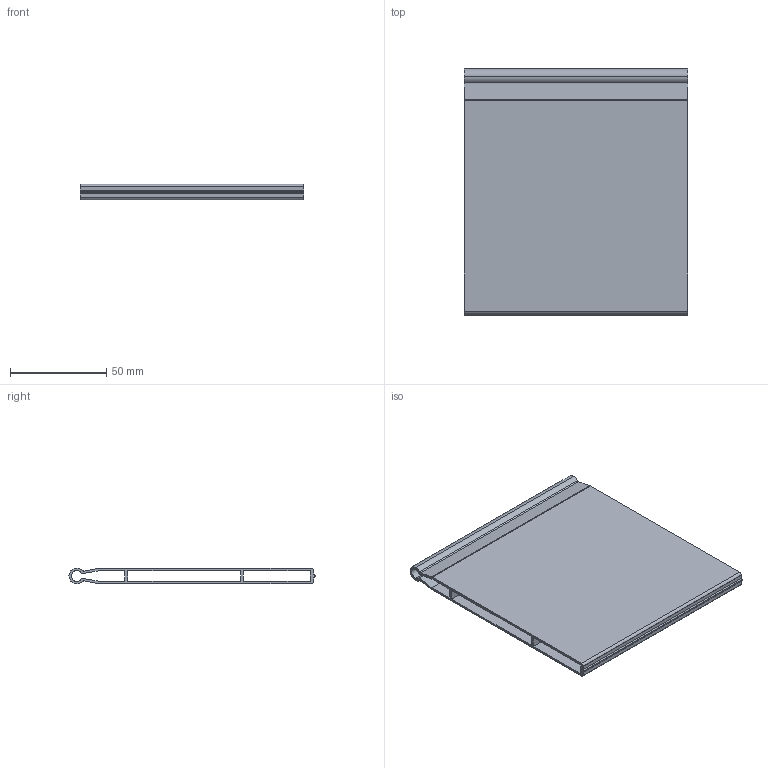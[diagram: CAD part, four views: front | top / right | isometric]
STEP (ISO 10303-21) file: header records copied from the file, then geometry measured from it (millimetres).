
FILE_DESCRIPTION (( 'STEP AP214' ), '1' );
FILE_NAME ('_Magic Optima Unterteilungsprofil DWD XP KAB 250.step', '2010-08-17T12:26:33', ( 'grass' ), ( '' ), 'SwSTEP 2.0', 'SolidWorks 2010', '' );
FILE_SCHEMA (( 'AUTOMOTIVE_DESIGN' ));
Length unit declared in the file: millimetre
Products named in the file (1): _Magic Optima Unterteilungsprofil DWD XP  KAB 250
Bounding box: 116 x 127.7 x 8.1 mm (x, y, z)
Volume: 40660.7 mm3; surface area: 63596.1 mm2
Topology: 1 solids, 1 shells, 39 faces, 111 edges, 74 vertices
Faces by surface type: plane 22, cylinder 17
Entity records: 1325 total; most frequent: CARTESIAN_POINT 225, DIRECTION 225, ORIENTED_EDGE 222, EDGE_CURVE 111, LINE 77, VECTOR 77, AXIS2_PLACEMENT_3D 74, VERTEX_POINT 74
